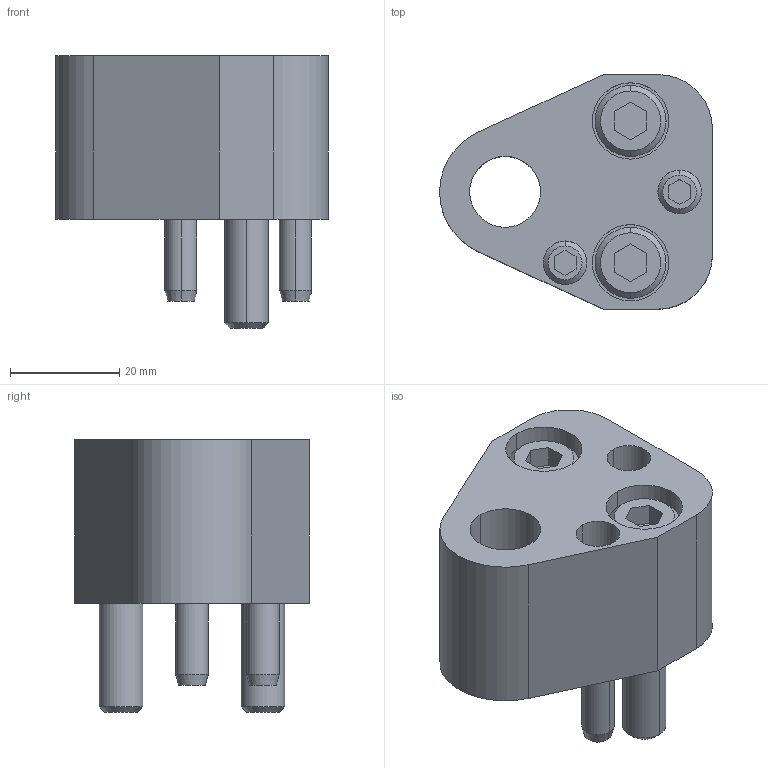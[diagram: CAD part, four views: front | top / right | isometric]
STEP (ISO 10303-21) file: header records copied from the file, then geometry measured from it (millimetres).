
FILE_DESCRIPTION(/* description */ (''),/* implementation_level */ '2;1');
FILE_NAME(/* name */ '3d_cpar13_02843_r00.stp',/* time_stamp */ '2011-01-10T14:16:26+09:00',/* author */ ('MISUMI'),/* organization */ (''),/* preprocessor_version */ 'ST-DEVELOPER v11',/* originating_system */ 'UGS - NX 5.0',/* authorisation */ '');
FILE_SCHEMA (('CONFIG_CONTROL_DESIGN'));
Length unit declared in the file: millimetre
Products named in the file (1): 3d_cpar13_02843_r00
Bounding box: 50 x 43 x 50 mm (x, y, z)
Volume: 45676.5 mm3; surface area: 17277.9 mm2
Topology: 7 solids, 7 shells, 135 faces, 292 edges, 186 vertices
Faces by surface type: plane 60, cylinder 49, cone 26
Entity records: 3816 total; most frequent: DIRECTION 684, CARTESIAN_POINT 662, ORIENTED_EDGE 584, EDGE_CURVE 292, AXIS2_PLACEMENT_3D 260, VERTEX_POINT 186, LINE 164, VECTOR 164
